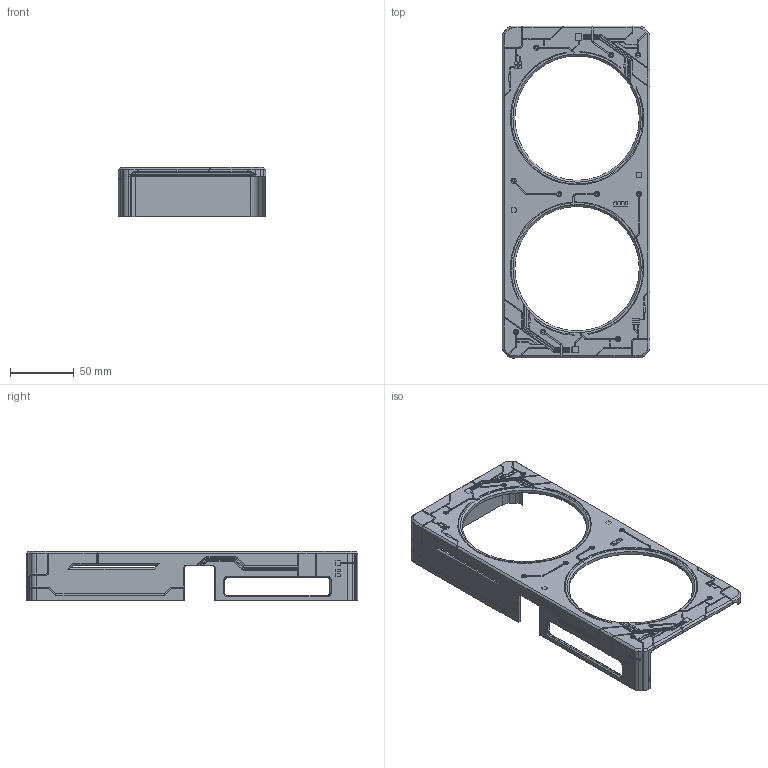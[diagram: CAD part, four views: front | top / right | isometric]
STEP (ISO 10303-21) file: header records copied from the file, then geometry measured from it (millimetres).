
FILE_DESCRIPTION((''),'2;1');
FILE_NAME('F330-1B0-COVER_FEEDBACK_DRAFT_2','2025-04-23T13:32:34',('Kate'),(''),'CREO PARAMETRIC BY PTC INC, 2021304','CREO PARAMETRIC BY PTC INC, 2021304','');
FILE_SCHEMA(('AUTOMOTIVE_DESIGN { 1 0 10303 214 1 1 1 1 }'));
Length unit declared in the file: millimetre
Products named in the file (1): F330-1B0-COVER_FEEDBACK_DRAFT_2
Bounding box: 115.7 x 260.2 x 39 mm (x, y, z)
Volume: 59562.3 mm3; surface area: 62120.3 mm2
Topology: 1 solids, 1 shells, 1193 faces, 3350 edges, 2186 vertices
Faces by surface type: plane 651, cylinder 378, torus 64, bspline 45, extrusion 31, cone 20, revolution 4
Entity records: 44690 total; most frequent: CARTESIAN_POINT 12532, ORIENTED_EDGE 6700, DIRECTION 6080, EDGE_CURVE 3350, VECTOR 2204, VERTEX_POINT 2186, LINE 2173, AXIS2_PLACEMENT_3D 1936
